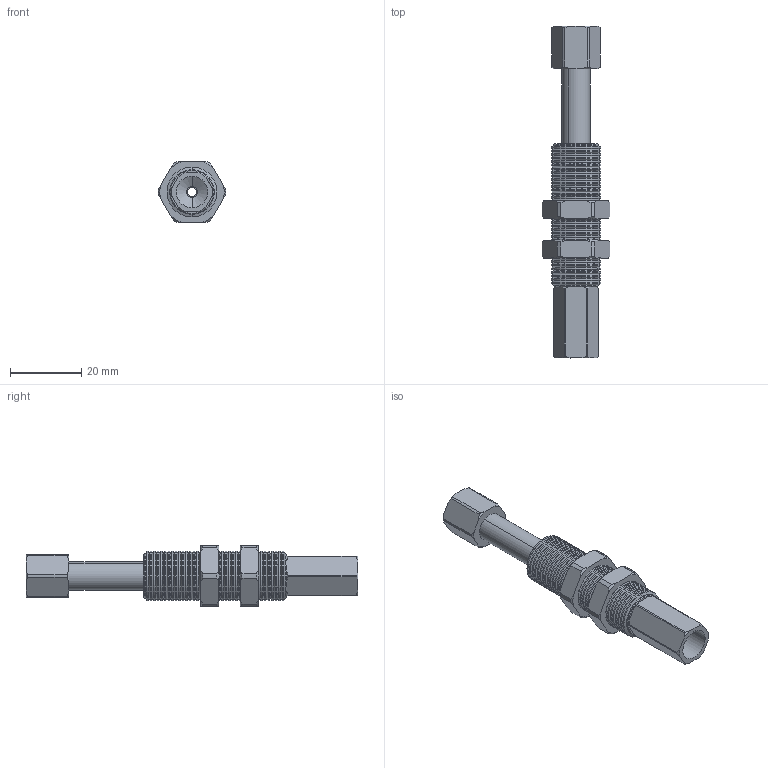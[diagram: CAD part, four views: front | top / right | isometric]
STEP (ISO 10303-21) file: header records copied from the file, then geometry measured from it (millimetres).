
FILE_DESCRIPTION (( 'STEP AP214' ), '1' );
FILE_NAME ('VFRT1421-G18.STEP', '2019-11-15T06:31:06', ( '微软用户' ), ( '微软中国' ), 'SwSTEP 2.0', 'SolidWorks 2016', '' );
FILE_SCHEMA (( 'AUTOMOTIVE_DESIGN' ));
Length unit declared in the file: millimetre
Products named in the file (1): VFRT1421-G18
Bounding box: 19 x 93 x 17 mm (x, y, z)
Volume: 9532.5 mm3; surface area: 10348.9 mm2
Topology: 5 solids, 5 shells, 432 faces, 1019 edges, 602 vertices
Faces by surface type: cone 245, cylinder 148, plane 39
Entity records: 17271 total; most frequent: CARTESIAN_POINT 2342, DIRECTION 2295, ORIENTED_EDGE 2038, EDGE_CURVE 1019, AXIS2_PLACEMENT_3D 939, VERTEX_POINT 602, CIRCLE 506, EDGE_LOOP 447
